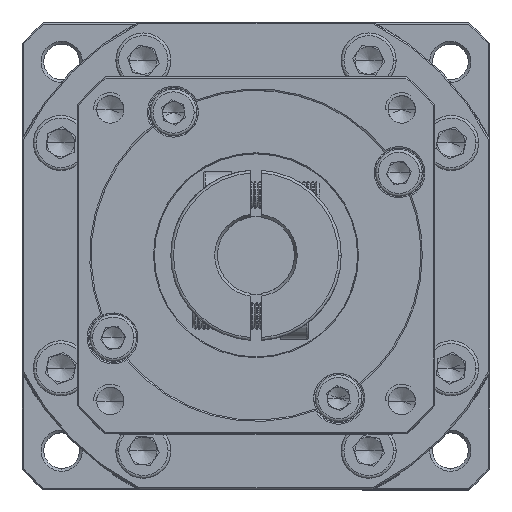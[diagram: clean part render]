
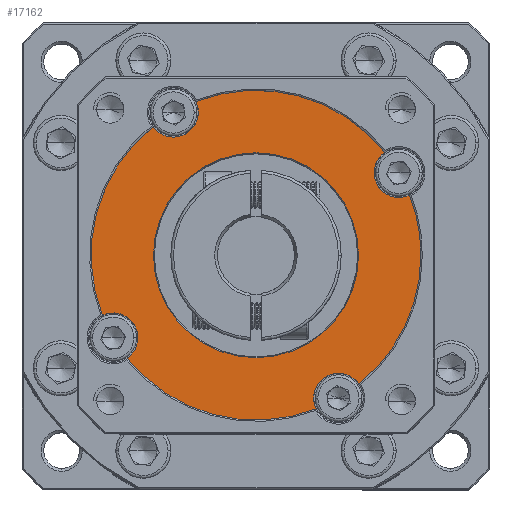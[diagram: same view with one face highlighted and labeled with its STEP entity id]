
A CAD part, top view. The second image highlights one B-rep face of the part: STEP entity #17162.
In plain terms, the highlighted planar face has unit normal (0, 0, 1).
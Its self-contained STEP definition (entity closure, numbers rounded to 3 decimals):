
#447 = DIRECTION ( 'NONE',  ( 0., 0., 1. ) ) ;
#627 = EDGE_CURVE ( 'NONE', #97510, #82995, #29499, .T. ) ;
#1065 = CIRCLE ( 'NONE', #84249, 4.5 ) ;
#3178 = CARTESIAN_POINT ( 'NONE',  ( -65.839, 19.997, 4.648 ) ) ;
#4214 = EDGE_CURVE ( 'NONE', #82995, #100354, #74569, .T. ) ;
#4377 = EDGE_CURVE ( 'NONE', #25716, #37475, #78830, .T. ) ;
#4553 = DIRECTION ( 'NONE',  ( 0., 0., 1. ) ) ;
#4893 = DIRECTION ( 'NONE',  ( 0., 0., -1. ) ) ;
#6979 = AXIS2_PLACEMENT_3D ( 'NONE', #59764, #4893, #68989 ) ;
#8142 = DIRECTION ( 'NONE',  ( 1., 0., 0. ) ) ;
#8419 = DIRECTION ( 'NONE',  ( 0., 0., 1. ) ) ;
#8458 = CARTESIAN_POINT ( 'NONE',  ( -65.839, 19.997, 4.648 ) ) ;
#8527 = CARTESIAN_POINT ( 'NONE',  ( -50.839, -5.983, 4.648 ) ) ;
#9070 = ORIENTED_EDGE ( 'NONE', *, *, #115289, .T. ) ;
#9472 = ORIENTED_EDGE ( 'NONE', *, *, #51952, .F. ) ;
#11568 = ORIENTED_EDGE ( 'NONE', *, *, #627, .F. ) ;
#12438 = DIRECTION ( 'NONE',  ( 1., 0., 0. ) ) ;
#12658 = ORIENTED_EDGE ( 'NONE', *, *, #64090, .T. ) ;
#13366 = AXIS2_PLACEMENT_3D ( 'NONE', #102022, #47192, #111180 ) ;
#14802 = VERTEX_POINT ( 'NONE', #84065 ) ;
#16962 = EDGE_CURVE ( 'NONE', #84554, #58248, #80377, .T. ) ;
#17162 = ADVANCED_FACE ( 'NONE', ( #37266, #85983 ), #67900, .T. ) ;
#17664 = DIRECTION ( 'NONE',  ( 1., 0., 0. ) ) ;
#17758 = ORIENTED_EDGE ( 'NONE', *, *, #41252, .T. ) ;
#18422 = CARTESIAN_POINT ( 'NONE',  ( -80.839, 45.978, 4.648 ) ) ;
#18809 = EDGE_CURVE ( 'NONE', #38137, #58248, #27845, .T. ) ;
#22095 = AXIS2_PLACEMENT_3D ( 'NONE', #55317, #447, #64511 ) ;
#22996 = CARTESIAN_POINT ( 'NONE',  ( -91.82, 4.997, 4.648 ) ) ;
#25716 = VERTEX_POINT ( 'NONE', #40647 ) ;
#25917 = DIRECTION ( 'NONE',  ( 0., 0., 1. ) ) ;
#27635 = DIRECTION ( 'NONE',  ( 1., 0., 0. ) ) ;
#27845 = CIRCLE ( 'NONE', #39463, 4.5 ) ;
#28652 = CARTESIAN_POINT ( 'NONE',  ( -65.839, 19.997, 4.648 ) ) ;
#29499 = CIRCLE ( 'NONE', #65168, 4.5 ) ;
#29752 = EDGE_CURVE ( 'NONE', #14802, #31212, #50321, .T. ) ;
#29999 = CIRCLE ( 'NONE', #6979, 18.644 ) ;
#31212 = VERTEX_POINT ( 'NONE', #48368 ) ;
#32238 = DIRECTION ( 'NONE',  ( 1., 0., 0. ) ) ;
#33411 = ORIENTED_EDGE ( 'NONE', *, *, #64262, .T. ) ;
#33780 = CARTESIAN_POINT ( 'NONE',  ( -55.339, -5.983, 4.648 ) ) ;
#34387 = CARTESIAN_POINT ( 'NONE',  ( -39.859, 34.997, 4.648 ) ) ;
#37266 = FACE_BOUND ( 'NONE', #99026, .T. ) ;
#37475 = VERTEX_POINT ( 'NONE', #40054 ) ;
#37600 = AXIS2_PLACEMENT_3D ( 'NONE', #59443, #4553, #68664 ) ;
#37904 = DIRECTION ( 'NONE',  ( 1., 0., 0. ) ) ;
#38137 = VERTEX_POINT ( 'NONE', #55540 ) ;
#39129 = ORIENTED_EDGE ( 'NONE', *, *, #116179, .F. ) ;
#39463 = AXIS2_PLACEMENT_3D ( 'NONE', #80836, #25917, #90008 ) ;
#40054 = CARTESIAN_POINT ( 'NONE',  ( -76.339, 45.978, 4.648 ) ) ;
#40647 = CARTESIAN_POINT ( 'NONE',  ( -84.557, 43.442, 4.648 ) ) ;
#41252 = EDGE_CURVE ( 'NONE', #105027, #57281, #105171, .T. ) ;
#41566 = CIRCLE ( 'NONE', #68930, 30. ) ;
#42248 = DIRECTION ( 'NONE',  ( 0., 0., 1. ) ) ;
#43513 = DIRECTION ( 'NONE',  ( 1., 0., 0. ) ) ;
#43723 = AXIS2_PLACEMENT_3D ( 'NONE', #22996, #87084, #32238 ) ;
#43847 = VERTEX_POINT ( 'NONE', #92887 ) ;
#47192 = DIRECTION ( 'NONE',  ( 0., 0., 1. ) ) ;
#47718 = DIRECTION ( 'NONE',  ( 0., 0., -1. ) ) ;
#48368 = CARTESIAN_POINT ( 'NONE',  ( -76.784, 47.929, 4.648 ) ) ;
#49082 = AXIS2_PLACEMENT_3D ( 'NONE', #102568, #47718, #111683 ) ;
#49825 = DIRECTION ( 'NONE',  ( 0., 0., 1. ) ) ;
#50321 = CIRCLE ( 'NONE', #111010, 30. ) ;
#51251 = ORIENTED_EDGE ( 'NONE', *, *, #68844, .F. ) ;
#51952 = EDGE_CURVE ( 'NONE', #14802, #38137, #1065, .T. ) ;
#52696 = DIRECTION ( 'NONE',  ( 0., 0., 1. ) ) ;
#55317 = CARTESIAN_POINT ( 'NONE',  ( -65.839, 19.997, 4.648 ) ) ;
#55540 = CARTESIAN_POINT ( 'NONE',  ( -44.359, 34.997, 4.648 ) ) ;
#56763 = CIRCLE ( 'NONE', #13366, 4.5 ) ;
#57281 = VERTEX_POINT ( 'NONE', #98898 ) ;
#57483 = AXIS2_PLACEMENT_3D ( 'NONE', #107509, #52696, #116613 ) ;
#58248 = VERTEX_POINT ( 'NONE', #102409 ) ;
#58969 = ORIENTED_EDGE ( 'NONE', *, *, #4214, .F. ) ;
#59443 = CARTESIAN_POINT ( 'NONE',  ( -80.839, 45.978, 4.648 ) ) ;
#59764 = CARTESIAN_POINT ( 'NONE',  ( -65.839, 19.997, 4.648 ) ) ;
#62267 = AXIS2_PLACEMENT_3D ( 'NONE', #104611, #49825, #113746 ) ;
#63230 = CIRCLE ( 'NONE', #22095, 30. ) ;
#64090 = EDGE_CURVE ( 'NONE', #97510, #84554, #63230, .T. ) ;
#64262 = EDGE_CURVE ( 'NONE', #103988, #100354, #41566, .T. ) ;
#64511 = DIRECTION ( 'NONE',  ( 1., 0., 0. ) ) ;
#65168 = AXIS2_PLACEMENT_3D ( 'NONE', #8527, #8419, #8142 ) ;
#67306 = DIRECTION ( 'NONE',  ( 0., 0., 1. ) ) ;
#67900 = PLANE ( 'NONE',  #62267 ) ;
#68664 = DIRECTION ( 'NONE',  ( 1., 0., 0. ) ) ;
#68844 = EDGE_CURVE ( 'NONE', #37475, #31212, #108562, .T. ) ;
#68864 = EDGE_CURVE ( 'NONE', #103988, #43847, #84296, .T. ) ;
#68930 = AXIS2_PLACEMENT_3D ( 'NONE', #3178, #67306, #12438 ) ;
#68989 = DIRECTION ( 'NONE',  ( 1., 0., 0. ) ) ;
#70233 = CARTESIAN_POINT ( 'NONE',  ( -35.839, 19.997, 4.648 ) ) ;
#72533 = DIRECTION ( 'NONE',  ( 0., 0., 1. ) ) ;
#73379 = EDGE_LOOP ( 'NONE', ( #103483, #33411, #58969, #11568, #12658, #96644, #82799, #9472, #112204, #51251, #103825, #82039, #39129 ) ) ;
#74569 = CIRCLE ( 'NONE', #57483, 4.5 ) ;
#75446 = CARTESIAN_POINT ( 'NONE',  ( -84.484, 19.997, 4.648 ) ) ;
#77240 = CARTESIAN_POINT ( 'NONE',  ( -89.284, 1.28, 4.648 ) ) ;
#78830 = CIRCLE ( 'NONE', #94271, 4.5 ) ;
#79637 = CARTESIAN_POINT ( 'NONE',  ( -54.894, -7.935, 4.648 ) ) ;
#80377 = CIRCLE ( 'NONE', #91383, 30. ) ;
#80836 = CARTESIAN_POINT ( 'NONE',  ( -39.859, 34.997, 4.648 ) ) ;
#82039 = ORIENTED_EDGE ( 'NONE', *, *, #104671, .T. ) ;
#82544 = DIRECTION ( 'NONE',  ( 0., 0., 1. ) ) ;
#82799 = ORIENTED_EDGE ( 'NONE', *, *, #18809, .F. ) ;
#82995 = VERTEX_POINT ( 'NONE', #33780 ) ;
#84065 = CARTESIAN_POINT ( 'NONE',  ( -42.395, 38.715, 4.648 ) ) ;
#84249 = AXIS2_PLACEMENT_3D ( 'NONE', #34387, #98341, #43513 ) ;
#84296 = CIRCLE ( 'NONE', #43723, 4.5 ) ;
#84554 = VERTEX_POINT ( 'NONE', #70233 ) ;
#85983 = FACE_OUTER_BOUND ( 'NONE', #73379, .T. ) ;
#87084 = DIRECTION ( 'NONE',  ( 0., 0., 1. ) ) ;
#89719 = CARTESIAN_POINT ( 'NONE',  ( -47.122, -3.447, 4.648 ) ) ;
#90008 = DIRECTION ( 'NONE',  ( 1., 0., 0. ) ) ;
#91383 = AXIS2_PLACEMENT_3D ( 'NONE', #28652, #92727, #37904 ) ;
#92727 = DIRECTION ( 'NONE',  ( 0., 0., 1. ) ) ;
#92887 = CARTESIAN_POINT ( 'NONE',  ( -87.32, 4.997, 4.648 ) ) ;
#94271 = AXIS2_PLACEMENT_3D ( 'NONE', #18422, #82544, #27635 ) ;
#95331 = AXIS2_PLACEMENT_3D ( 'NONE', #97061, #42248, #106279 ) ;
#96644 = ORIENTED_EDGE ( 'NONE', *, *, #16962, .T. ) ;
#97061 = CARTESIAN_POINT ( 'NONE',  ( -65.839, 19.997, 4.648 ) ) ;
#97510 = VERTEX_POINT ( 'NONE', #89719 ) ;
#98341 = DIRECTION ( 'NONE',  ( 0., 0., 1. ) ) ;
#98898 = CARTESIAN_POINT ( 'NONE',  ( -47.195, 19.997, 4.648 ) ) ;
#99026 = EDGE_LOOP ( 'NONE', ( #9070, #17758 ) ) ;
#99255 = VERTEX_POINT ( 'NONE', #106352 ) ;
#100354 = VERTEX_POINT ( 'NONE', #79637 ) ;
#102022 = CARTESIAN_POINT ( 'NONE',  ( -91.82, 4.997, 4.648 ) ) ;
#102272 = CIRCLE ( 'NONE', #95331, 30. ) ;
#102409 = CARTESIAN_POINT ( 'NONE',  ( -37.907, 30.942, 4.648 ) ) ;
#102568 = CARTESIAN_POINT ( 'NONE',  ( -65.839, 19.997, 4.648 ) ) ;
#103483 = ORIENTED_EDGE ( 'NONE', *, *, #68864, .F. ) ;
#103825 = ORIENTED_EDGE ( 'NONE', *, *, #4377, .F. ) ;
#103988 = VERTEX_POINT ( 'NONE', #77240 ) ;
#104611 = CARTESIAN_POINT ( 'NONE',  ( -65.839, 19.997, 4.648 ) ) ;
#104671 = EDGE_CURVE ( 'NONE', #25716, #99255, #102272, .T. ) ;
#105027 = VERTEX_POINT ( 'NONE', #75446 ) ;
#105171 = CIRCLE ( 'NONE', #49082, 18.644 ) ;
#106279 = DIRECTION ( 'NONE',  ( 1., 0., 0. ) ) ;
#106352 = CARTESIAN_POINT ( 'NONE',  ( -93.771, 9.052, 4.648 ) ) ;
#107509 = CARTESIAN_POINT ( 'NONE',  ( -50.839, -5.983, 4.648 ) ) ;
#108562 = CIRCLE ( 'NONE', #37600, 4.5 ) ;
#111010 = AXIS2_PLACEMENT_3D ( 'NONE', #8458, #72533, #17664 ) ;
#111180 = DIRECTION ( 'NONE',  ( 1., 0., 0. ) ) ;
#111683 = DIRECTION ( 'NONE',  ( 1., 0., 0. ) ) ;
#112204 = ORIENTED_EDGE ( 'NONE', *, *, #29752, .T. ) ;
#113746 = DIRECTION ( 'NONE',  ( 1., 0., 0. ) ) ;
#115289 = EDGE_CURVE ( 'NONE', #57281, #105027, #29999, .T. ) ;
#116179 = EDGE_CURVE ( 'NONE', #43847, #99255, #56763, .T. ) ;
#116613 = DIRECTION ( 'NONE',  ( 1., 0., 0. ) ) ;
